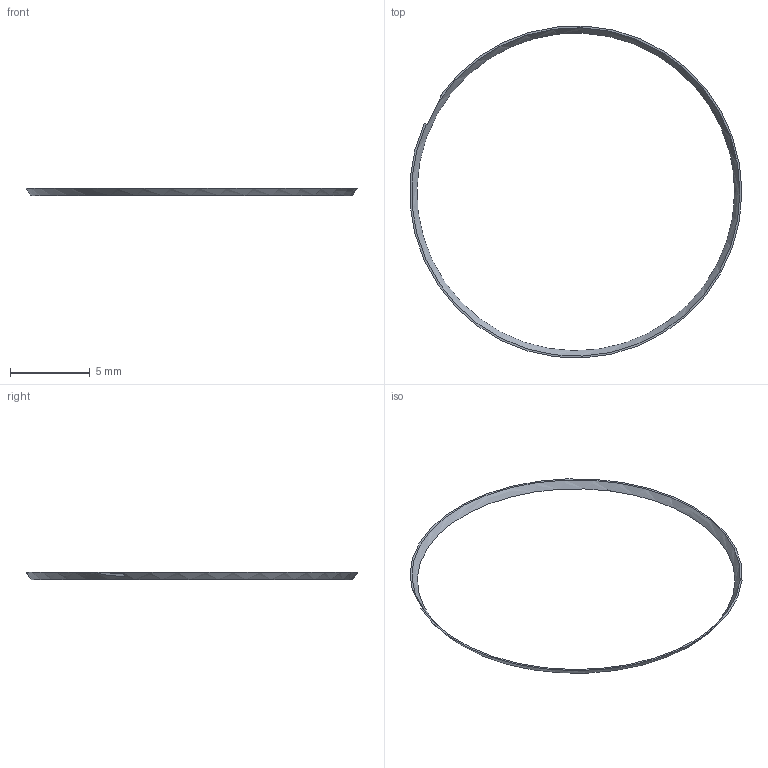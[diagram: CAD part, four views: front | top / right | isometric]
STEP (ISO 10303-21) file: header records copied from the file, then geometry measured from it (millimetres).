
FILE_DESCRIPTION(('FreeCAD Model'),'2;1');
FILE_NAME('Open CASCADE Shape Model','2026-10-23T21:15:57',('FreeCAD'),( 'FreeCAD'),'Open CASCADE STEP processor 7.8','FreeCAD','Unknown');
FILE_SCHEMA(('AUTOMOTIVE_DESIGN { 1 0 10303 214 1 1 1 1 }'));
Length unit declared in the file: millimetre
Products named in the file (1): Open CASCADE STEP translator 7.8 4
Bounding box: 20.8 x 20.81 x 0.45 mm (x, y, z)
Volume: 3.4 mm3; surface area: 87 mm2
Topology: 1 solids, 1 shells, 7 faces, 18 edges, 12 vertices
Faces by surface type: plane 5, revolution 2
Entity records: 594 total; most frequent: CARTESIAN_POINT 420, ORIENTED_EDGE 36, DIRECTION 27, EDGE_CURVE 18, VERTEX_POINT 12, B_SPLINE_CURVE_WITH_KNOTS 11, AXIS2_PLACEMENT_3D 10, FACE_BOUND 8
